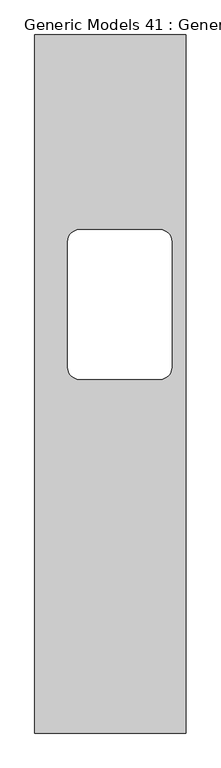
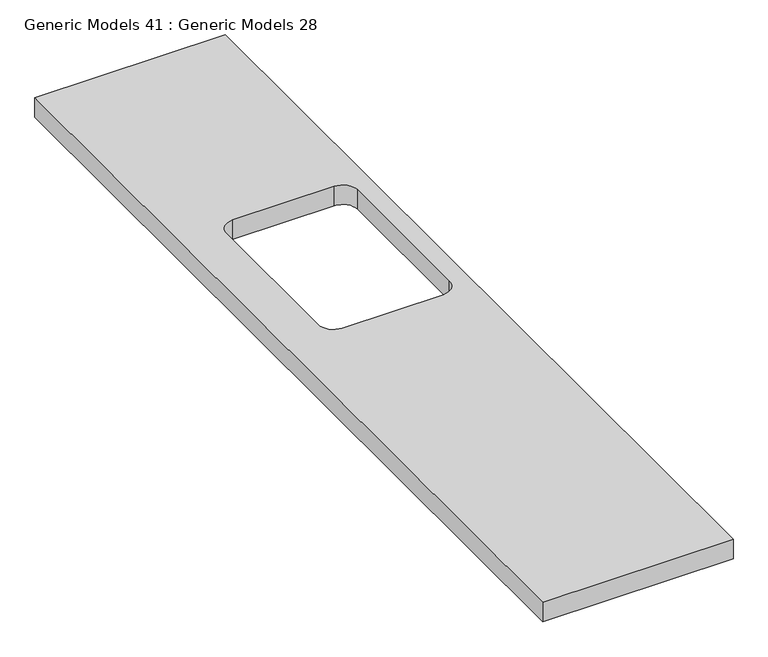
"""IFC4 building model written with IfcOpenShell, lengths in millimetres: proxy geometry, Generic Models 41 : Generic Models 28."""

from ifc_helpers import new_model, si_unit, point, frame, frame_2d, origin, place, context, project, spatial, polyline, circle_curve, trimmed, segment, composite_curve, outline, extrude, source, transform, mapped, element, save


def generic_models_41_generic_models_28_bebedd4d(model_context):
    return source(origin(), model_context, "Body", "SweptSolid", [
        extrude(outline(polyline([(-22577.2739616, -1614.5871375), (-22577.2739616, -4614.5871375), (-23227.2739616, -4614.5871375), (-23227.2739616, -1614.5871375), (-22577.2739616, -1614.5871375)]), holes=[composite_curve([segment(polyline([(-23034.8338515, -3094.318049), (-22688.8338515, -3094.318049)]), True, "CONTINUOUS"), segment(trimmed(circle_curve(frame_2d((-22688.8338515, -3043.518049)), 50.8), [point((-22688.8338515, -3094.318049))], [point((-22638.0338515, -3043.518049))], True, "CARTESIAN"), True, "CONTINUOUS"), segment(polyline([(-22638.0338515, -3043.518049), (-22638.0338515, -2502.018049)]), True, "CONTINUOUS"), segment(trimmed(circle_curve(frame_2d((-22688.8338515, -2502.018049)), 50.8), [point((-22638.0338515, -2502.018049))], [point((-22688.8338515, -2451.218049))], True, "CARTESIAN"), True, "CONTINUOUS"), segment(polyline([(-22688.8338515, -2451.218049), (-23034.8338515, -2451.218049)]), True, "CONTINUOUS"), segment(trimmed(circle_curve(frame_2d((-23034.8338515, -2502.018049)), 50.8), [point((-23034.8338515, -2451.218049))], [point((-23085.6338515, -2502.018049))], True, "CARTESIAN"), True, "CONTINUOUS"), segment(polyline([(-23085.6338515, -2502.018049), (-23085.6338515, -3043.518049)]), True, "CONTINUOUS"), segment(trimmed(circle_curve(frame_2d((-23034.8338515, -3043.518049)), 50.8), [point((-23085.6338515, -3043.518049))], [point((-23034.8338515, -3094.318049))], True, "CARTESIAN"), True, "CONTINUOUS")], self_intersect=False)]), frame((0.0, 0.0, 830.0), z_axis=(0.0, 0.0, 1.0), x_axis=(1.0, 0.0, 0.0)), (0.0, 0.0, 1.0), 70.0),
    ])


if __name__ == "__main__":
    model = new_model("IFC4")
    model_context = context("Model", 3, world=origin())
    ifc_project = project(units=[si_unit("LENGTHUNIT", "METRE", prefix="MILLI")], contexts=[model_context])
    site = spatial("IfcSite", under=ifc_project)
    building = spatial("IfcBuilding", under=site)
    placement = place(None, origin())
    generic_models_41_generic_models_28_shape = generic_models_41_generic_models_28_bebedd4d(model_context)
    element("IfcBuildingElementProxy", 1, Name="Generic Models 41 : Generic Models 28", ObjectType="Generic Models 41 : Generic Models 28", at=placement, inside=building, context=model_context, shape_type="MappedRepresentation", body=[
        mapped(generic_models_41_generic_models_28_shape, transform((0.0, 0.0, 0.0), x_axis=(1.0, 0.0, 0.0), y_axis=(0.0, 1.0, 0.0), z_axis=(0.0, 0.0, 1.0))),
    ])
    save(model, "model.ifc")
